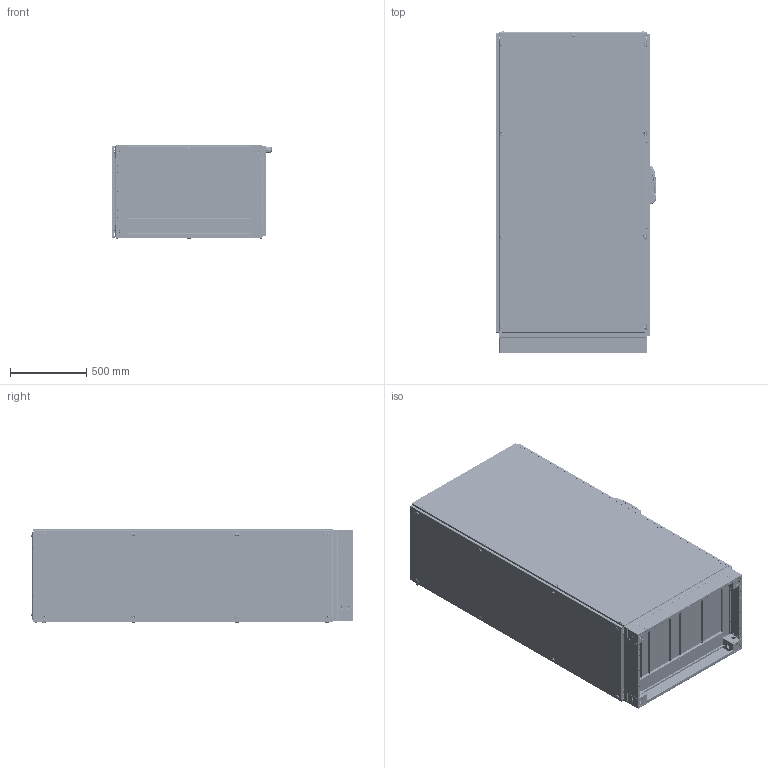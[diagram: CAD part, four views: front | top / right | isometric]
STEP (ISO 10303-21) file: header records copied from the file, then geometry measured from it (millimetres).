
FILE_DESCRIPTION (( 'STEP AP203' ), '1' );
FILE_NAME ('706.200 600x2000x1000.STEP', '2020-04-04T15:55:58', ( '' ), ( '' ), 'SwSTEP 2.0', 'SolidWorks 2019', '' );
FILE_SCHEMA (( 'CONFIG_CONTROL_DESIGN' ));
Length unit declared in the file: millimetre
Products named in the file (129): 706.200 600x2000x1000; MP 14.0007 M6 PLASTÝK HAVSA; TEOS Kilit Üst Çubuk Montaj_2000H; ENINE DELIKLI PROFIL_600; kose rondela kabartmaSIZ 10; 03-TABAN SACI SURGU_PP 12.0030 - 600; MP 14.0006 PVC SIZDIRMAZLIK CONTASI; pan cross head_am1_B18.6.7M - M5 x 0.8 x 10 Type I Cross Recessed PHMS --10N; TEOS Kilit Alt Çubuk Montaj_2000H; Teos-Neo MP Sað Braketi; 03-2012 sac kilit dil 10-2010 ORTA; 252016-2; M6 HAVÞA PLASTÝK CÝVATA; TEOS SIDE PANEL_706.200 2000X1000; MP 18.7631 204 handle REV04 tekpan logo; PB 14.0004 M6 HAVÞA PLASTÝK CÝVATA; yan Kapak 09-2014 800 der ust tek hv r3_2000x1000; BAZA KÖÞES_SAG; Teos-Neo MP Durdurucu Destek; TEOS TEK KAPAK REVÝZE_600x2000; socket button head cap screw_am_B18.3.4M - 12 x 1.75 x 30 SBHCS --N; TEOS Kilit Alt Çubuk_2000; V3 -2011 DT BAZA KAPAGI yan_1000; 03-KOSE PUNT; TEOS iskelet_600x2000x1000; M6 KAFES SOMU2015; MP 11.0195 montaj plakasý m8takoz1VER3 NEO26-12; M8 KAFES SOMUN_m8; Teos-Neo MP Durdurucu; somu; MP 18.7631 yddk_tozkapagi; Teos-Neo MP Sað Braket Montaj_Standart Pozisyon; 03-TABAN SACI U1 04-2012_PP 12.0040 - 600-75; Teos-Neo MP Sol Braketi; MP 18.7631 Gövde-Plastik; mp aLT DAYAMA_PP 12.0094 - 800; 03-taban genislik percinli 04 - 2012 100-120_PP 12.0019 - 600; kose rondela kabartmaSIZ 12; kapali dikey profilkenetli_ita oluklu10-aaaaaaaaaaaa-1_1000; delikli profil cerceve_600x2000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
Assembly tree (396 placements, depth 7):
  706.200 600x2000x1000
    TEOS iskelet_600x2000x1000
      kapali dikey profilkenetli_ita oluklu10-aaaaaaaaaaaa-1_2000   x4
      kapali dikey profilkenetli_ita oluklu10-aaaaaaaaaaaa-1_1000  x4
      kapali dikey profilkenetli_ita oluklu10-aaaaaaaaaaaa-1_600  x4
      L KOSE DESTEKorj1  x8
      kose rondela kabartmaSIZ 10  x15
      kose rondela kabartmaSIZ 12
      MP 11.0140 TEOS ALUMINYUM KOSE APPROVED 16.08.2010  x8
      M5 DÝKEY PROFÝL RONDELA  x16
      percinli taban-vidalý kapak-kose pls yok_701.610-60x100 ALT
        03-taban genislik percinli 04 - 2012 100-120_PP 12.0019 - 600  x2
        03taban derinlik percinli_PP 15.0001 - 1000  x2
        03-KOSE PUNT_PP 12.0027
        03-KOSE PUNT
        Mirror03-KOSE PUNT  x2
        TEOS V2 BAZA S嵞TEM廆600X1000
          BAZA KÖÞES_SAG
            V2 BAZA KOSESI2015_100
            BAZA SISTEMIV2-6 baza kapaðý201550x40_TEKPAN LOGOLU
            M6 KAFES SOMU2015
              kafes somun kafes
              somu
            M6 KAFES SOMU2015
              kafes somun kafes
              somu
          V2 -2011 DT BAZA KAPAGI ON_PP 12.0045 - 600  x2
          BAZA KÖÞES_SOL
            V2 BAZA KOSESI2015_100
            BAZA SISTEMIV2-6 baza kapaðý201550x40
            M6 KAFES SOMU2015
              kafes somun kafes
              somu
            M6 KAFES SOMU2015
              kafes somun kafes
              somu
          BAZA KÖÞES_SAG
            V2 BAZA KOSESI2015_100
            BAZA SISTEMIV2-6 baza kapaðý201550x40_TEKPAN LOGOLU
            M6 KAFES SOMU2015
              kafes somun kafes
              somu
            M6 KAFES SOMU2015
              kafes somun kafes
              somu
          BAZA KÖÞES_SOL
            V2 BAZA KOSESI2015_100
            BAZA SISTEMIV2-6 baza kapaðý201550x40
            M6 KAFES SOMU2015
              kafes somun kafes
              somu
            M6 KAFES SOMU2015
              kafes somun kafes
              somu
          V3 -2011 DT BAZA KAPAGI yan_1000  x2
          flat head screw_am_B18.6.7M - M6 x 1.0 x 20 Type I Cross Recessed FHMS --20N  x8
        03-TABAN SACI SURGU_PP 12.0030 - 600  x2
        03-TABAN SACI U1 04-2012_PP 12.0040 - 600-75
        03-TABAN SACI U1 04-2012_PP 12.0035 - 600-200  x2
        03-TABAN SACI U1 04-2012_PP 12.0037 - 1000-200
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Bounding box: 1058.08 x 2117.1 x 623.59 mm (x, y, z)
Volume: 24321063.6 mm3; surface area: 27005441.6 mm2
Topology: 340 solids, 380 shells, 53686 faces, 146088 edges, 92859 vertices
Faces by surface type: plane 34050, cylinder 14675, bspline 2211, torus 1163, cone 978, sphere 609
Entity records: 731257 total; most frequent: CARTESIAN_POINT 299186, ORIENTED_EDGE 87776, DIRECTION 81237, EDGE_CURVE 43888, LINE 29349, VECTOR 29349, VERTEX_POINT 28140, AXIS2_PLACEMENT_3D 25944
